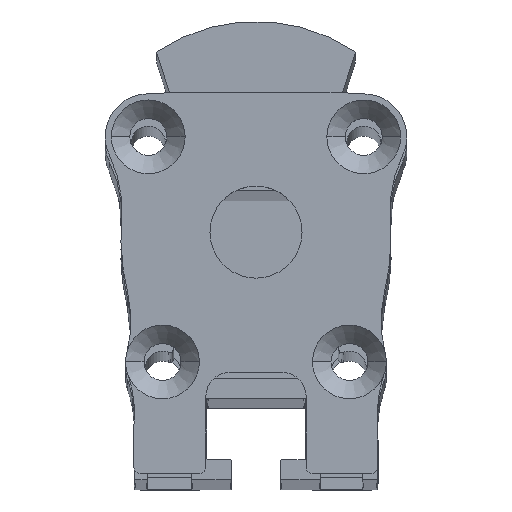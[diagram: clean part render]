
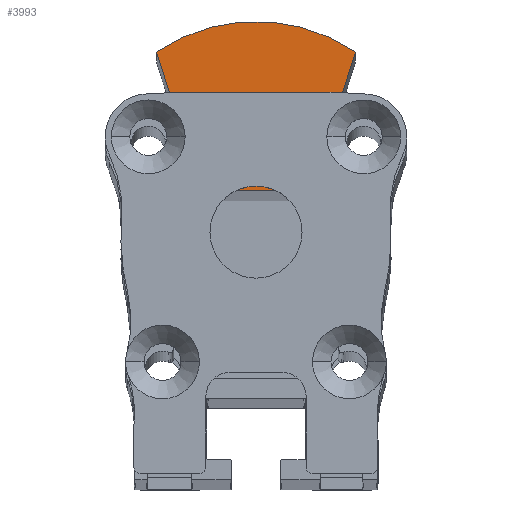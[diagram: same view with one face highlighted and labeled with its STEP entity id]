
A CAD part, top view. The second image highlights one B-rep face of the part: STEP entity #3993.
In plain terms, the highlighted planar face has unit normal (0, 0, 1).
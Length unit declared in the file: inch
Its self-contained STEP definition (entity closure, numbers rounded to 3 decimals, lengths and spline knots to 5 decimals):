
#3993=ADVANCED_FACE('',(#7809),#7810,.T.);
#4001=EDGE_CURVE('',#7813,#7819,#7822,.T.);
#4007=EDGE_CURVE('',#7827,#7819,#7830,.F.);
#4029=EDGE_CURVE('',#7861,#7862,#7863,.F.);
#4035=EDGE_CURVE('',#7869,#7870,#7871,.F.);
#4041=EDGE_CURVE('',#7870,#7861,#7877,.F.);
#4043=EDGE_CURVE('',#7869,#7879,#7880,.F.);
#4047=EDGE_CURVE('',#7813,#7862,#7884,.F.);
#4049=EDGE_CURVE('',#7886,#7887,#7888,.F.);
#4055=EDGE_CURVE('',#7827,#7894,#7895,.F.);
#4059=EDGE_CURVE('',#7894,#7886,#7899,.F.);
#4063=EDGE_CURVE('',#7901,#7887,#7904,.F.);
#4065=EDGE_CURVE('',#7879,#7901,#7906,.F.);
#7809=FACE_OUTER_BOUND('',#18356,.T.);
#7810=PLANE('',#18357);
#7813=VERTEX_POINT('',#18361);
#7819=VERTEX_POINT('',#18371);
#7822=LINE('',#18376,#18377);
#7827=VERTEX_POINT('',#18385);
#7830=LINE('',#18390,#18391);
#7861=VERTEX_POINT('',#18442);
#7862=VERTEX_POINT('',#18443);
#7863=LINE('',#18444,#18445);
#7869=VERTEX_POINT('',#18456);
#7870=VERTEX_POINT('',#18457);
#7871=LINE('',#18458,#18459);
#7877=LINE('',#18470,#18471);
#7879=VERTEX_POINT('',#18474);
#7880=LINE('',#18475,#18476);
#7884=LINE('',#18483,#18484);
#7886=VERTEX_POINT('',#18487);
#7887=VERTEX_POINT('',#18488);
#7888=LINE('',#18489,#18490);
#7894=VERTEX_POINT('',#18501);
#7895=LINE('',#18502,#18503);
#7899=LINE('',#18510,#18511);
#7901=VERTEX_POINT('',#18514);
#7904=LINE('',#18519,#18520);
#7906=CIRCLE('',#18523,0.56299);
#18356=EDGE_LOOP('',(#24065,#24066,#24067,#24068,#24069,#24070,#24071,#24072,#24073,#24074,#24075,#24076));
#18357=AXIS2_PLACEMENT_3D('',#24077,#24078,#24079);
#18361=CARTESIAN_POINT('',(-0.17932,0.15296,7.12643));
#18371=CARTESIAN_POINT('',(0.17932,0.15296,7.12643));
#18376=CARTESIAN_POINT('',(0.,0.15296,7.12643));
#18377=VECTOR('',#24083,1.0);
#18385=CARTESIAN_POINT('',(0.26301,0.4208,7.12643));
#18390=CARTESIAN_POINT('',(0.19145,0.19179,7.12643));
#18391=VECTOR('',#24086,1.0);
#18442=CARTESIAN_POINT('',(-0.21005,0.4208,7.12643));
#18443=CARTESIAN_POINT('',(-0.26301,0.4208,7.12643));
#18444=CARTESIAN_POINT('',(-0.12298,0.4208,7.12643));
#18445=VECTOR('',#24099,1.0);
#18456=CARTESIAN_POINT('',(-0.27532,0.46017,7.12643));
#18457=CARTESIAN_POINT('',(-0.21005,0.46017,7.12643));
#18458=CARTESIAN_POINT('',(-0.12298,0.46017,7.12643));
#18459=VECTOR('',#24102,1.0);
#18470=CARTESIAN_POINT('',(-0.21005,0.35333,7.12643));
#18471=VECTOR('',#24105,1.0);
#18474=CARTESIAN_POINT('',(-0.31832,0.59777,7.12643));
#18475=CARTESIAN_POINT('',(-0.19145,0.19179,7.12643));
#18476=VECTOR('',#24106,1.0);
#18483=CARTESIAN_POINT('',(-0.19145,0.19179,7.12643));
#18484=VECTOR('',#24108,1.0);
#18487=CARTESIAN_POINT('',(0.20856,0.46017,7.12643));
#18488=CARTESIAN_POINT('',(0.27532,0.46017,7.12643));
#18489=CARTESIAN_POINT('',(0.12223,0.46017,7.12643));
#18490=VECTOR('',#24109,1.0);
#18501=CARTESIAN_POINT('',(0.20856,0.4208,7.12643));
#18502=CARTESIAN_POINT('',(0.12223,0.4208,7.12643));
#18503=VECTOR('',#24112,1.0);
#18510=CARTESIAN_POINT('',(0.20856,0.35333,7.12643));
#18511=VECTOR('',#24114,1.0);
#18514=CARTESIAN_POINT('',(0.31832,0.59777,7.12643));
#18519=CARTESIAN_POINT('',(0.19145,0.19179,7.12643));
#18520=VECTOR('',#24116,1.0);
#18523=AXIS2_PLACEMENT_3D('',#24117,#24118,#24119);
#24065=ORIENTED_EDGE('',*,*,#4001,.T.);
#24066=ORIENTED_EDGE('',*,*,#4007,.F.);
#24067=ORIENTED_EDGE('',*,*,#4055,.T.);
#24068=ORIENTED_EDGE('',*,*,#4059,.T.);
#24069=ORIENTED_EDGE('',*,*,#4049,.T.);
#24070=ORIENTED_EDGE('',*,*,#4063,.F.);
#24071=ORIENTED_EDGE('',*,*,#4065,.F.);
#24072=ORIENTED_EDGE('',*,*,#4043,.F.);
#24073=ORIENTED_EDGE('',*,*,#4035,.T.);
#24074=ORIENTED_EDGE('',*,*,#4041,.T.);
#24075=ORIENTED_EDGE('',*,*,#4029,.T.);
#24076=ORIENTED_EDGE('',*,*,#4047,.F.);
#24077=CARTESIAN_POINT('',(0.,0.26619,7.12643));
#24078=DIRECTION('',(0.,0.,1.0));
#24079=DIRECTION('',(1.0,0.0,0.));
#24083=DIRECTION('',(1.0,0.0,0.));
#24086=DIRECTION('',(0.298,0.954,0.));
#24099=DIRECTION('',(1.0,0.0,0.));
#24102=DIRECTION('',(-1.0,0.0,0.));
#24105=DIRECTION('',(-0.0,1.0,0.));
#24106=DIRECTION('',(0.298,-0.954,0.));
#24108=DIRECTION('',(0.298,-0.954,0.));
#24109=DIRECTION('',(-1.0,0.0,0.));
#24112=DIRECTION('',(1.0,0.0,0.));
#24114=DIRECTION('',(-0.0,-1.0,0.));
#24116=DIRECTION('',(0.298,0.954,0.));
#24117=CARTESIAN_POINT('',(0.,0.13341,7.12643));
#24118=DIRECTION('',(0.,0.,1.0));
#24119=DIRECTION('',(1.0,0.,0.));
